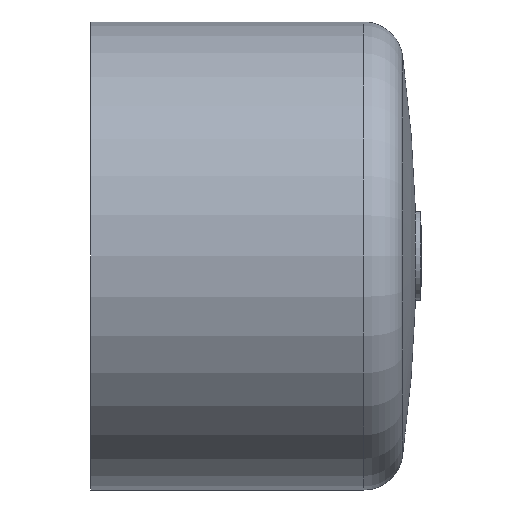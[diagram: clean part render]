
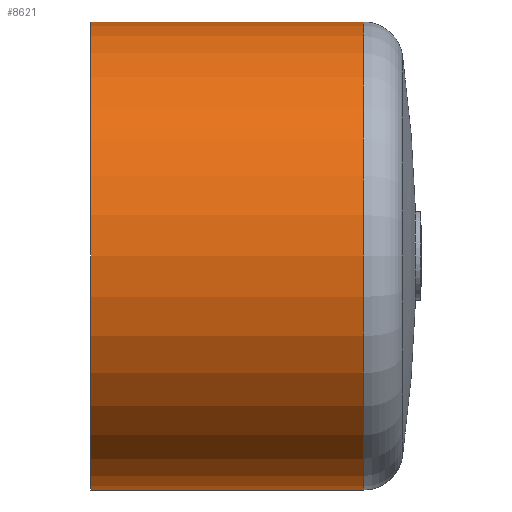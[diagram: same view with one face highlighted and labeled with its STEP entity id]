
A CAD part, front view. The second image highlights one B-rep face of the part: STEP entity #8621.
In plain terms, the highlighted cylindrical face has radius 90 mm (diameter 180 mm), a full revolution.
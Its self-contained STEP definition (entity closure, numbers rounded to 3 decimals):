
#70=CYLINDRICAL_SURFACE('',#9419,90.);
#4189=ORIENTED_EDGE('',*,*,#5536,.T.);
#4190=ORIENTED_EDGE('',*,*,#5535,.T.);
#5535=EDGE_CURVE('',#6320,#6320,#6816,.T.);
#5536=EDGE_CURVE('',#6321,#6321,#6817,.T.);
#6320=VERTEX_POINT('',#21603);
#6321=VERTEX_POINT('',#21606);
#6816=CIRCLE('',#9418,90.);
#6817=CIRCLE('',#9420,90.);
#7408=EDGE_LOOP('',(#4189));
#7409=EDGE_LOOP('',(#4190));
#8003=FACE_BOUND('',#7408,.T.);
#8004=FACE_BOUND('',#7409,.T.);
#8621=ADVANCED_FACE('',(#8003,#8004),#70,.T.);
#9418=AXIS2_PLACEMENT_3D('',#21602,#11084,#11085);
#9419=AXIS2_PLACEMENT_3D('',#21604,#11086,#11087);
#9420=AXIS2_PLACEMENT_3D('',#21605,#11088,#11089);
#11084=DIRECTION('',(-1.,0.,0.));
#11085=DIRECTION('',(0.,0.,1.));
#11086=DIRECTION('',(-1.,0.,0.));
#11087=DIRECTION('',(0.,0.,1.));
#11088=DIRECTION('',(1.,0.,0.));
#11089=DIRECTION('',(0.,-1.,0.));
#21602=CARTESIAN_POINT('',(113.,0.,0.));
#21603=CARTESIAN_POINT('',(113.,0.,90.));
#21604=CARTESIAN_POINT('',(60.,0.,0.));
#21605=CARTESIAN_POINT('',(8.,0.,0.));
#21606=CARTESIAN_POINT('',(8.,-90.,0.));
